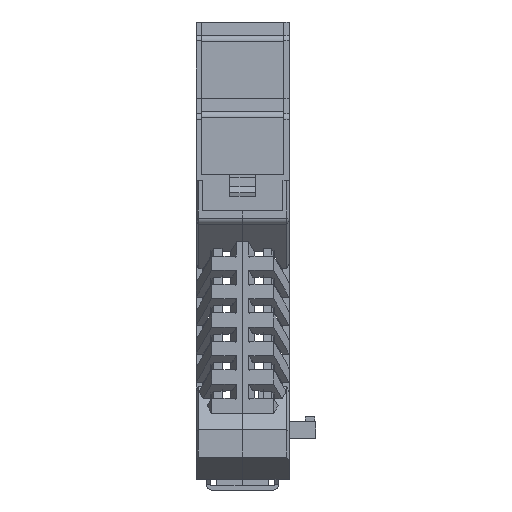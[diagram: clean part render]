
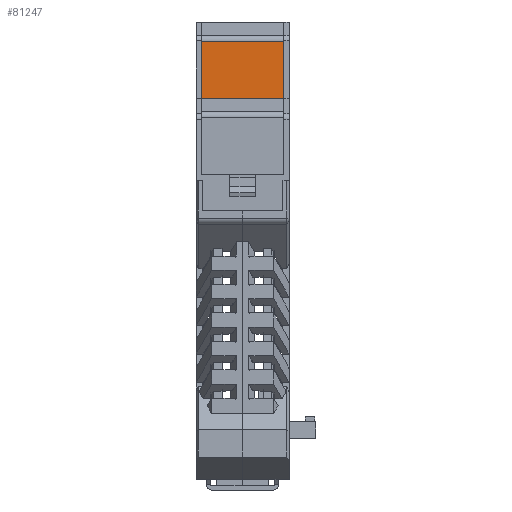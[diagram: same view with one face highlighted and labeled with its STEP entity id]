
A CAD part, front view. The second image highlights one B-rep face of the part: STEP entity #81247.
In plain terms, the highlighted planar face has unit normal (0, -1, 0.001) as drawn and (-1, 0, 0) by its records, which use the part's own axes.
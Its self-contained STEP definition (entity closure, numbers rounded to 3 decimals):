
#81247=ADVANCED_FACE('',(#151317),#151319,.T.);
#151317=FACE_BOUND('',#151318,.T.);
#151318=EDGE_LOOP('',(#207874,#207875,#207876,#207877));
#151319=PLANE('',#151320);
#151320=AXIS2_PLACEMENT_3D('',#151321,#151322,#151323);
#151321=CARTESIAN_POINT('',(-38.8,110.338,32.65));
#151322=DIRECTION('',(-1.,0.,0.));
#151323=DIRECTION('',(0.,-1.,0.));
#207874=ORIENTED_EDGE('',*,*,#237634,.F.);
#207875=ORIENTED_EDGE('',*,*,#237635,.T.);
#207876=ORIENTED_EDGE('',*,*,#237601,.F.);
#207877=ORIENTED_EDGE('',*,*,#237636,.F.);
#237601=EDGE_CURVE('',#281540,#281542,#281543,.T.);
#237634=EDGE_CURVE('',#281601,#281602,#281603,.T.);
#237635=EDGE_CURVE('',#281601,#281542,#281604,.T.);
#237636=EDGE_CURVE('',#281602,#281540,#281605,.T.);
#281540=VERTEX_POINT('',#384523);
#281542=VERTEX_POINT('',#384527);
#281543=LINE('',#384528,#384529);
#281601=VERTEX_POINT('',#384652);
#281602=VERTEX_POINT('',#384653);
#281603=LINE('',#384654,#384655);
#281604=LINE('',#384657,#384658);
#281605=LINE('',#384660,#384661);
#384523=CARTESIAN_POINT('',(-38.8,96.407,32.6));
#384527=CARTESIAN_POINT('',(-38.8,96.407,12.6));
#384528=CARTESIAN_POINT('',(-38.8,96.407,32.6));
#384529=VECTOR('',#384530,1.);
#384530=DIRECTION('',(0.,0.,-1.));
#384652=CARTESIAN_POINT('',(-38.8,110.249,12.6));
#384653=CARTESIAN_POINT('',(-38.8,110.249,32.6));
#384654=CARTESIAN_POINT('',(-38.8,110.249,12.6));
#384655=VECTOR('',#384656,1.);
#384656=DIRECTION('',(0.,0.,1.));
#384657=CARTESIAN_POINT('',(-38.8,110.249,12.6));
#384658=VECTOR('',#384659,1.);
#384659=DIRECTION('',(0.,-1.,0.));
#384660=CARTESIAN_POINT('',(-38.8,110.249,32.6));
#384661=VECTOR('',#384662,1.);
#384662=DIRECTION('',(0.,-1.,0.));
